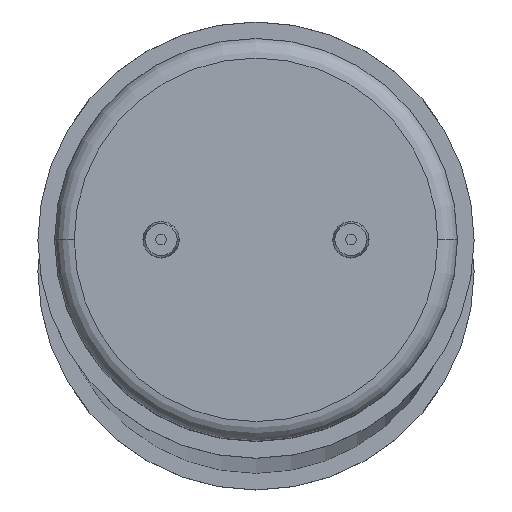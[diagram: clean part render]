
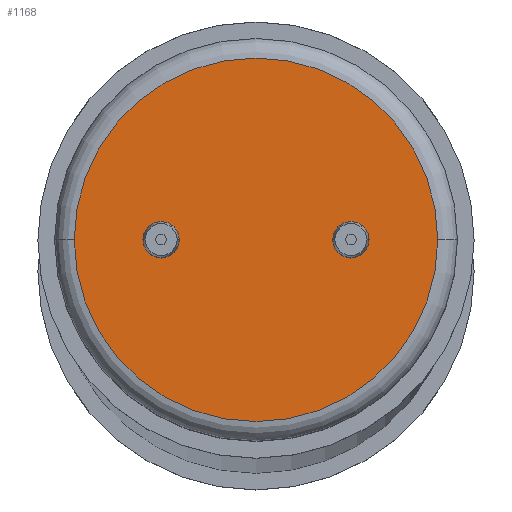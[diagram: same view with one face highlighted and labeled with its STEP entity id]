
A CAD part, top view. The second image highlights one B-rep face of the part: STEP entity #1168.
In plain terms, the highlighted planar face has unit normal (0, 0, 1).
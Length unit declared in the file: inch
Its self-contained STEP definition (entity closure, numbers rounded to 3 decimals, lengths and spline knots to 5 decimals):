
#16 = ORIENTED_EDGE ( 'NONE', *, *, #407, .F. ) ;
#39 = VERTEX_POINT ( 'NONE', #879 ) ;
#40 = CARTESIAN_POINT ( 'NONE',  ( 0., 0.4625, 23.5625 ) ) ;
#114 = ORIENTED_EDGE ( 'NONE', *, *, #1130, .T. ) ;
#148 = PLANE ( 'NONE',  #876 ) ;
#167 = AXIS2_PLACEMENT_3D ( 'NONE', #1255, #250, #1163 ) ;
#209 = CARTESIAN_POINT ( 'NONE',  ( 0.4625, 0., 23.5625 ) ) ;
#218 = CIRCLE ( 'NONE', #432, 0.4625 ) ;
#229 = DIRECTION ( 'NONE',  ( -1., 0., 0. ) ) ;
#235 = CIRCLE ( 'NONE', #868, 0.0465 ) ;
#238 = DIRECTION ( 'NONE',  ( 0., 0., 1. ) ) ;
#250 = DIRECTION ( 'NONE',  ( 0., 0., 1. ) ) ;
#266 = DIRECTION ( 'NONE',  ( -1., 0., 0. ) ) ;
#336 = VERTEX_POINT ( 'NONE', #616 ) ;
#344 = CARTESIAN_POINT ( 'NONE',  ( -0.2415, 0., 23.5625 ) ) ;
#345 = EDGE_CURVE ( 'NONE', #808, #1300, #793, .T. ) ;
#359 = FACE_BOUND ( 'NONE', #768, .T. ) ;
#370 = CARTESIAN_POINT ( 'NONE',  ( 0.2415, 0., 23.5625 ) ) ;
#374 = DIRECTION ( 'NONE',  ( 1., 0., 0. ) ) ;
#383 = ORIENTED_EDGE ( 'NONE', *, *, #345, .T. ) ;
#407 = EDGE_CURVE ( 'NONE', #1074, #775, #235, .T. ) ;
#432 = AXIS2_PLACEMENT_3D ( 'NONE', #487, #1144, #374 ) ;
#487 = CARTESIAN_POINT ( 'NONE',  ( 0., 0., 23.5625 ) ) ;
#496 = DIRECTION ( 'NONE',  ( 0., 0., 1. ) ) ;
#540 = CIRCLE ( 'NONE', #1116, 0.0465 ) ;
#553 = EDGE_CURVE ( 'NONE', #39, #336, #540, .T. ) ;
#601 = EDGE_CURVE ( 'NONE', #336, #39, #922, .T. ) ;
#613 = CARTESIAN_POINT ( 'NONE',  ( 0.195, 0., 23.5625 ) ) ;
#616 = CARTESIAN_POINT ( 'NONE',  ( -0.195, 0., 23.5625 ) ) ;
#683 = EDGE_LOOP ( 'NONE', ( #383, #114 ) ) ;
#768 = EDGE_LOOP ( 'NONE', ( #16, #1209 ) ) ;
#775 = VERTEX_POINT ( 'NONE', #1207 ) ;
#793 = CIRCLE ( 'NONE', #1430, 0.4625 ) ;
#808 = VERTEX_POINT ( 'NONE', #209 ) ;
#868 = AXIS2_PLACEMENT_3D ( 'NONE', #370, #1034, #266 ) ;
#876 = AXIS2_PLACEMENT_3D ( 'NONE', #40, #923, #1360 ) ;
#879 = CARTESIAN_POINT ( 'NONE',  ( -0.288, 0., 23.5625 ) ) ;
#886 = DIRECTION ( 'NONE',  ( -1., 0., 0. ) ) ;
#904 = CARTESIAN_POINT ( 'NONE',  ( -0.4625, 0., 23.5625 ) ) ;
#907 = EDGE_CURVE ( 'NONE', #775, #1074, #1316, .T. ) ;
#922 = CIRCLE ( 'NONE', #977, 0.0465 ) ;
#923 = DIRECTION ( 'NONE',  ( 0., 0., -1. ) ) ;
#977 = AXIS2_PLACEMENT_3D ( 'NONE', #344, #996, #229 ) ;
#996 = DIRECTION ( 'NONE',  ( 0., 0., 1. ) ) ;
#998 = FACE_OUTER_BOUND ( 'NONE', #683, .T. ) ;
#1003 = CARTESIAN_POINT ( 'NONE',  ( -0.2415, 0., 23.5625 ) ) ;
#1034 = DIRECTION ( 'NONE',  ( 0., 0., 1. ) ) ;
#1074 = VERTEX_POINT ( 'NONE', #613 ) ;
#1116 = AXIS2_PLACEMENT_3D ( 'NONE', #1003, #238, #886 ) ;
#1122 = EDGE_LOOP ( 'NONE', ( #1191, #1216 ) ) ;
#1130 = EDGE_CURVE ( 'NONE', #1300, #808, #218, .T. ) ;
#1144 = DIRECTION ( 'NONE',  ( 0., 0., 1. ) ) ;
#1149 = DIRECTION ( 'NONE',  ( 1., 0., 0. ) ) ;
#1163 = DIRECTION ( 'NONE',  ( -1., 0., 0. ) ) ;
#1168 = ADVANCED_FACE ( 'NONE', ( #359, #1275, #998 ), #148, .F. ) ;
#1191 = ORIENTED_EDGE ( 'NONE', *, *, #553, .F. ) ;
#1207 = CARTESIAN_POINT ( 'NONE',  ( 0.288, 0., 23.5625 ) ) ;
#1209 = ORIENTED_EDGE ( 'NONE', *, *, #907, .F. ) ;
#1216 = ORIENTED_EDGE ( 'NONE', *, *, #601, .F. ) ;
#1255 = CARTESIAN_POINT ( 'NONE',  ( 0.2415, 0., 23.5625 ) ) ;
#1270 = CARTESIAN_POINT ( 'NONE',  ( 0., 0., 23.5625 ) ) ;
#1275 = FACE_BOUND ( 'NONE', #1122, .T. ) ;
#1300 = VERTEX_POINT ( 'NONE', #904 ) ;
#1316 = CIRCLE ( 'NONE', #167, 0.0465 ) ;
#1360 = DIRECTION ( 'NONE',  ( -1., 0., 0. ) ) ;
#1430 = AXIS2_PLACEMENT_3D ( 'NONE', #1270, #496, #1149 ) ;
